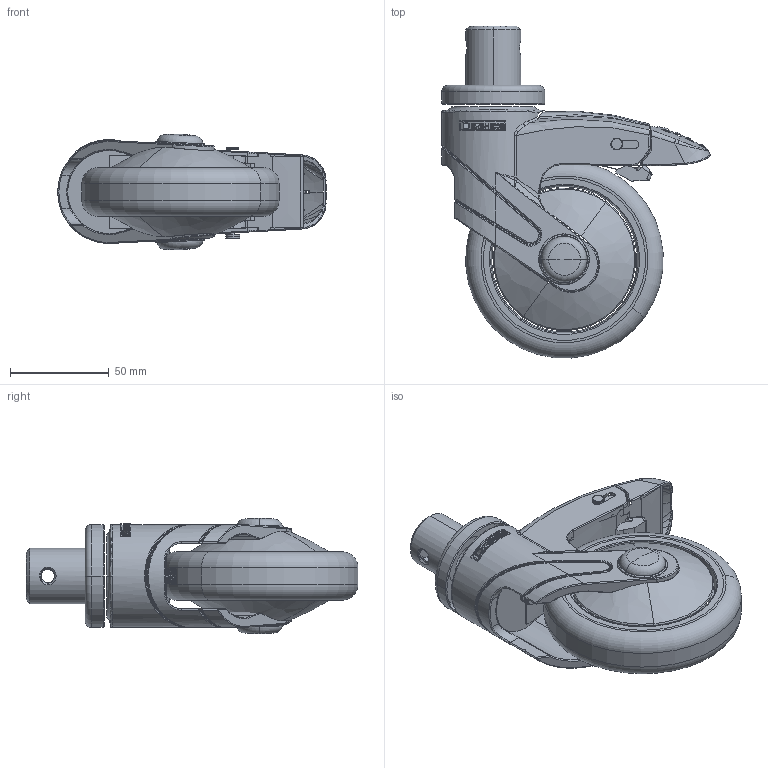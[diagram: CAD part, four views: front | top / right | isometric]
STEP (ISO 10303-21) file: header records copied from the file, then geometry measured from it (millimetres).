
FILE_DESCRIPTION((''),'2;1');
FILE_NAME('PRT0002','2025-08-08T14:44:27',('Administrator'),(''),'CREO PARAMETRIC BY PTC INC, 2022124','CREO PARAMETRIC BY PTC INC, 2022124','');
FILE_SCHEMA(('AUTOMOTIVE_DESIGN { 1 0 10303 214 1 1 1 1 }'));
Length unit declared in the file: millimetre
Products named in the file (1): PRT0002
Bounding box: 135.67 x 167.87 x 58.65 mm (x, y, z)
Surface area: 60941.7 mm2 (no closed solid volume)
Topology: 0 solids, 31 shells, 414 faces, 1629 edges, 1179 vertices
Faces by surface type: bspline 195, cylinder 103, plane 54, torus 43, cone 13, sphere 4, extrusion 2
Entity records: 37499 total; most frequent: CARTESIAN_POINT 23206, ORIENTED_EDGE 2347, DIRECTION 1795, EDGE_CURVE 1619, VERTEX_POINT 1179, B_SPLINE_CURVE_WITH_KNOTS 782, AXIS2_PLACEMENT_3D 724, CIRCLE 497
